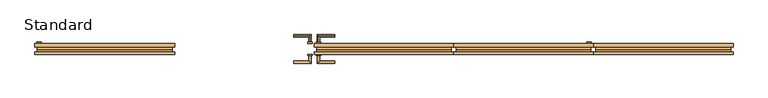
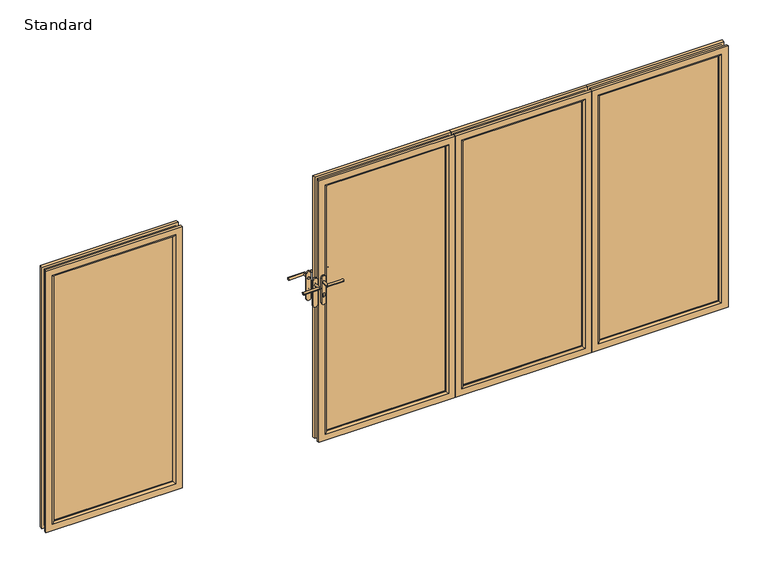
"""IFC4 building model written with IfcOpenShell, lengths in millimetres: door geometry, SMARTS_Visofold1000 : Standard."""

from ifc_helpers import new_model, si_unit, point, frame, frame_2d, origin, place, context, project, spatial, polyline, circle_curve, ellipse_curve, trimmed, segment, composite_curve, outline, extrude, faceted_brep, source, transform, mapped, element, save
from ifc_brep_helpers import plane_surface, cylinder_surface, advanced_brep


def standard_dc8b9571(model_context):
    return source(origin(), model_context, "Body", "SolidModel", [
        extrude(outline(composite_curve([segment(polyline([(1228.0996413, 1927.3333333), (1040.0996413, 1927.3333333)]), True, "CONTINUOUS"), segment(trimmed(circle_curve(frame_2d((1040.0996413, 1943.3333333)), 16.0), [point((1040.0996413, 1927.3333333))], [point((1040.0996413, 1959.3333333))], False, "CARTESIAN"), True, "CONTINUOUS"), segment(polyline([(1040.0996413, 1959.3333333), (1228.0996413, 1959.3333333)]), True, "CONTINUOUS"), segment(trimmed(circle_curve(frame_2d((1228.0996413, 1943.3333333)), 16.0), [point((1228.0996413, 1959.3333333))], [point((1228.0996413, 1927.3333333))], False, "CARTESIAN"), True, "CONTINUOUS")], self_intersect=False)), frame((0.0, 75.0, 0.0), z_axis=(0.0, 1.0, 0.0), x_axis=(0.0, 0.0, 1.0)), (0.0, 0.0, 1.0), 10.0),
        extrude(outline(polyline([(45.0, 1928.3333333), (1955.0, 1928.3333333), (1955.0, 1031.6666667), (45.0, 1031.6666667), (45.0, 1928.3333333)]), holes=[polyline([(1939.5, 1912.8333333), (60.5, 1912.8333333), (60.5, 1047.1666667), (1939.5, 1047.1666667), (1939.5, 1912.8333333)])]), frame((0.0, 17.4, 0.0), z_axis=(0.0, 1.0, 0.0), x_axis=(0.0, 0.0, 1.0)), (0.0, 0.0, 1.0), 35.0),
        faceted_brep([(1973.3333333, 74.4, 0.0), (1973.3333333, 74.4, 2000.0), (1973.3333333, 52.4, 2000.0), (1973.3333333, 52.4, 0.0), (1912.8333333, 52.4, 60.5), (1912.8333333, 52.4, 1939.5), (1912.8333333, 74.4, 1939.5), (1912.8333333, 74.4, 60.5), (986.6666667, 74.4, 2000.0), (986.6666667, 52.4, 2000.0), (1047.1666667, 52.4, 1939.5), (1047.1666667, 74.4, 1939.5), (986.6666667, 74.4, 0.0), (986.6666667, 52.4, 0.0), (1047.1666667, 52.4, 60.5), (1047.1666667, 74.4, 60.5), (1955.4641853, 34.8, 17.8691481), (1955.4641853, 34.8, 1982.1308519), (1004.5358147, 34.8, 1982.1308519), (1004.5358147, 34.8, 17.8691481), (1928.3333333, 34.8, 1955.0), (1928.3333333, 34.8, 45.0), (1031.6666667, 34.8, 45.0), (1031.6666667, 34.8, 1955.0), (1955.4641853, 52.4, 17.8691481), (1955.4641853, 52.4, 1982.1308519), (1928.3333333, 52.4, 1955.0), (1928.3333333, 52.4, 45.0), (1004.5358147, 52.4, 1982.1308519), (1031.6666667, 52.4, 1955.0), (1004.5358147, 52.4, 17.8691481), (1031.6666667, 52.4, 45.0)], [[[0, 1, 2, 3]], [[4, 5, 6, 7]], [[1, 8, 9, 2]], [[5, 10, 11, 6]], [[8, 12, 13, 9]], [[10, 14, 15, 11]], [[12, 0, 3, 13]], [[1, 0, 12, 8], [7, 6, 11, 15]], [[14, 4, 7, 15]], [[16, 17, 18, 19], [20, 21, 22, 23]], [[24, 25, 17, 16]], [[21, 20, 26, 27]], [[25, 28, 18, 17]], [[20, 23, 29, 26]], [[28, 30, 19, 18]], [[23, 22, 31, 29]], [[30, 24, 16, 19]], [[3, 2, 9, 13], [25, 24, 30, 28]], [[27, 26, 29, 31], [5, 4, 14, 10]], [[22, 21, 27, 31]]]),
        advanced_brep(
        [(1912.8333333, 13.3, 60.5), (1912.8333333, 13.3, 1939.5), (1912.8333333, 17.4, 1939.5), (1912.8333333, 17.4, 60.5), (1973.3333333, 17.4, 0.0), (1973.3333333, 17.4, 2000.0), (1973.3333333, 0.0, 2000.0), (1973.3333333, 0.0, 0.0), (1047.1666667, 13.3, 1939.5), (1047.1666667, 17.4, 1939.5), (986.6666667, 17.4, 2000.0), (986.6666667, 0.0, 2000.0), (1047.1666667, 13.3, 60.5), (1047.1666667, 17.4, 60.5), (986.6666667, 17.4, 0.0), (986.6666667, 0.0, 0.0), (1926.1333333, 0.0, 1952.8), (1926.1333333, 0.0, 47.2), (1033.8666667, 0.0, 47.2), (1033.8666667, 0.0, 1952.8), (1955.4641853, 34.8, 17.8691481), (1955.4641853, 34.8, 1982.1308519), (1955.4641853, 17.4, 1982.1308519), (1955.4641853, 17.4, 17.8691481), (1004.5358147, 34.8, 1982.1308519), (1004.5358147, 17.4, 1982.1308519), (1004.5358147, 34.8, 17.8691481), (1004.5358147, 17.4, 17.8691481), (1928.3333333, 17.4, 45.0), (1928.3333333, 17.4, 1955.0), (1928.3333333, 34.8, 1955.0), (1928.3333333, 34.8, 45.0), (1031.6666667, 17.4, 1955.0), (1031.6666667, 34.8, 1955.0), (1031.6666667, 17.4, 45.0), (1031.6666667, 34.8, 45.0)],
        [
            (0, 1),
            (1, 2),
            (2, 3),
            (3, 0),
            (4, 5),
            (5, 6),
            (6, 7),
            (7, 4),
            (1, 8),
            (8, 9),
            (9, 2),
            (5, 10),
            (10, 11),
            (11, 6),
            (8, 12),
            (12, 13),
            (13, 9),
            (10, 14),
            (14, 15),
            (15, 11),
            (12, 0),
            (3, 13),
            (15, 7),
            (16, 17),
            (17, 18),
            (18, 19),
            (19, 16),
            (14, 4),
            (16, 1, ellipse_curve(frame((1926.1333333, 13.3, 1952.8), z_axis=(0.7071067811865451, 0.0, -0.7071067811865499), x_axis=(-0.70710678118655, 0.0, -0.7071067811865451)), 18.8090404, 13.3)),
            (0, 17, ellipse_curve(frame((1926.1333333, 13.3, 47.2), z_axis=(0.70710678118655, 0.0, 0.707106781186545), x_axis=(0.707106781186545, 0.0, -0.7071067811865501)), 18.8090404, 13.3)),
            (19, 8, ellipse_curve(frame((1033.8666667, 13.3, 1952.8), z_axis=(0.70710678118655, 0.0, 0.707106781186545), x_axis=(0.707106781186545, 0.0, -0.7071067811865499)), 18.8090404, 13.3)),
            (18, 12, ellipse_curve(frame((1033.8666667, 13.3, 47.2), z_axis=(-0.7071067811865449, 0.0, 0.70710678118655), x_axis=(0.7071067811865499, 0.0, 0.707106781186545)), 18.8090404, 13.3)),
            (20, 21),
            (21, 22),
            (22, 23),
            (23, 20),
            (21, 24),
            (24, 25),
            (25, 22),
            (24, 26),
            (26, 27),
            (27, 25),
            (27, 23),
            (26, 20),
            (28, 29),
            (29, 30),
            (30, 31),
            (31, 28),
            (29, 32),
            (32, 33),
            (33, 30),
            (32, 34),
            (34, 35),
            (35, 33),
            (34, 28),
            (31, 35),
        ],
        [
            plane_surface(frame((1912.8333333, 17.4, 60.5), z_axis=(-1.0, 0.0, 0.0), x_axis=(0.0, 0.0, 1.0))),
            plane_surface(frame((1973.3333333, 0.0, 0.0), z_axis=(1.0, 0.0, 0.0), x_axis=(0.0, 0.0, 1.0))),
            plane_surface(frame((1912.8333333, 17.4, 1939.5), z_axis=(0.0, 0.0, -1.0), x_axis=(-1.0, 0.0, 0.0))),
            plane_surface(frame((1973.3333333, 0.0, 2000.0), z_axis=(0.0, 0.0, 1.0), x_axis=(-1.0, 0.0, 0.0))),
            plane_surface(frame((1047.1666667, 17.4, 1939.5), z_axis=(1.0, 0.0, 0.0), x_axis=(0.0, 0.0, -1.0))),
            plane_surface(frame((986.6666667, 0.0, 2000.0), z_axis=(-1.0, 0.0, 0.0), x_axis=(0.0, 0.0, -1.0))),
            plane_surface(frame((1047.1666667, 17.4, 60.5), z_axis=(0.0, 0.0, 1.0), x_axis=(1.0, 0.0, 0.0))),
            plane_surface(frame((1033.8666667, 0.0, 47.2), z_axis=(0.0, -1.0, 0.0), x_axis=(1.0, 0.0, 0.0))),
            plane_surface(frame((986.6666667, 0.0, 0.0), z_axis=(0.0, 0.0, -1.0), x_axis=(1.0, 0.0, 0.0))),
            cylinder_surface(frame((1926.1333333, 13.3, 0.0), z_axis=(0.0, 0.0, -1.0), x_axis=(0.0, 1.0, 0.0)), 13.3),
            cylinder_surface(frame((1973.3333333, 13.3, 1952.8), z_axis=(1.0, 0.0, 0.0), x_axis=(0.0, 1.0, 0.0)), 13.3),
            cylinder_surface(frame((1033.8666667, 13.3, 2000.0), z_axis=(0.0, 0.0, 1.0), x_axis=(0.0, 1.0, 0.0)), 13.3),
            cylinder_surface(frame((986.6666667, 13.3, 47.2), z_axis=(-1.0, 0.0, 0.0), x_axis=(0.0, 1.0, 0.0)), 13.3),
            plane_surface(frame((1955.4641853, 17.4, 17.8691481), z_axis=(1.0, 0.0, 0.0), x_axis=(0.0, 0.0, 1.0))),
            plane_surface(frame((1955.4641853, 17.4, 1982.1308519), z_axis=(0.0, 0.0, 1.0), x_axis=(-1.0, 0.0, 0.0))),
            plane_surface(frame((1004.5358147, 17.4, 1982.1308519), z_axis=(-1.0, 0.0, 0.0), x_axis=(0.0, 0.0, -1.0))),
            plane_surface(frame((986.6666667, 17.4, 0.0), z_axis=(0.0, 1.0, 0.0), x_axis=(1.0, 0.0, 0.0))),
            plane_surface(frame((1004.5358147, 17.4, 17.8691481), z_axis=(0.0, 0.0, -1.0), x_axis=(1.0, 0.0, 0.0))),
            plane_surface(frame((1928.3333333, 34.8, 45.0), z_axis=(-1.0, 0.0, 0.0), x_axis=(0.0, 0.0, 1.0))),
            plane_surface(frame((1928.3333333, 34.8, 1955.0), z_axis=(0.0, 0.0, -1.0), x_axis=(-1.0, 0.0, 0.0))),
            plane_surface(frame((1031.6666667, 34.8, 1955.0), z_axis=(1.0, 0.0, 0.0), x_axis=(0.0, 0.0, -1.0))),
            plane_surface(frame((1031.6666667, 34.8, 45.0), z_axis=(0.0, 0.0, 1.0), x_axis=(1.0, 0.0, 0.0))),
            plane_surface(frame((1031.6666667, 17.4, 45.0), z_axis=(0.0, 1.0, 0.0), x_axis=(1.0, 0.0, 0.0))),
            plane_surface(frame((1004.5358147, 34.8, 17.8691481), z_axis=(0.0, 1.0, 0.0), x_axis=(1.0, 0.0, 0.0))),
        ],
        [
            (0, [[1, 2, 3, 4]]),
            (1, [[5, 6, 7, 8]]),
            (2, [[9, 10, 11, -2]]),
            (3, [[12, 13, 14, -6]]),
            (4, [[15, 16, 17, -10]]),
            (5, [[18, 19, 20, -13]]),
            (6, [[21, -4, 22, -16]]),
            (7, [[-7, -14, -20, 23], [24, 25, 26, 27]]),
            (8, [[28, -8, -23, -19]]),
            (9, [[-24, 29, -1, 30]]),
            (10, [[-27, 31, -9, -29]]),
            (11, [[-26, 32, -15, -31]]),
            (12, [[-25, -30, -21, -32]]),
            (13, [[33, 34, 35, 36]]),
            (14, [[37, 38, 39, -34]]),
            (15, [[40, 41, 42, -38]]),
            (16, [[-5, -28, -18, -12], [-35, -39, -42, 43]]),
            (17, [[44, -36, -43, -41]]),
            (18, [[45, 46, 47, 48]]),
            (19, [[49, 50, 51, -46]]),
            (20, [[52, 53, 54, -50]]),
            (21, [[55, -48, 56, -53]]),
            (22, [[-45, -55, -52, -49], [-3, -11, -17, -22]]),
            (23, [[-33, -44, -40, -37], [-47, -51, -54, -56]]),
        ],
    ),
        extrude(outline(polyline([(1912.8333333, 50.1484783), (1912.8333333, 21.4), (1047.1666667, 21.4), (1047.1666667, 50.1484783), (1912.8333333, 50.1484783)])), frame((0.0, 0.0, 60.5), z_axis=(0.0, 0.0, 1.0), x_axis=(1.0, 0.0, 0.0)), (0.0, 0.0, 1.0), 1879.0),
        advanced_brep(
        [(30.0, 75.0, 1232.5996413), (30.0, 75.0, 1215.5996413), (30.0, 130.0, 1215.5996413), (30.0, 130.0, 1232.5996413), (145.0, 130.0, 1232.5996413), (145.0, 130.0, 1215.5996413)],
        [
            (0, 1, circle_curve(frame((30.0, 75.0, 1224.0996413), z_axis=(0.0, -1.0, 0.0), x_axis=(0.0, 0.0, -1.0)), 8.5)),
            (1, 0, circle_curve(frame((30.0, 75.0, 1224.0996413), z_axis=(0.0, -1.0, 0.0), x_axis=(0.0, 0.0, -1.0)), 8.5)),
            (1, 2),
            (2, 3, ellipse_curve(frame((30.0, 130.0, 1224.0996413), z_axis=(-0.7071067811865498, -0.7071067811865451, 0.0), x_axis=(0.707106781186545, -0.70710678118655, 0.0)), 12.0208153, 8.5)),
            (3, 0),
            (3, 2, ellipse_curve(frame((30.0, 130.0, 1224.0996413), z_axis=(-0.7071067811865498, -0.7071067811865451, 0.0), x_axis=(0.707106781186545, -0.70710678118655, 0.0)), 12.0208153, 8.5)),
            (4, 5, circle_curve(frame((145.0, 130.0, 1224.0996413), z_axis=(1.0, 0.0, 0.0), x_axis=(0.0, 0.0, -1.0)), 8.5)),
            (5, 4, circle_curve(frame((145.0, 130.0, 1224.0996413), z_axis=(1.0, 0.0, 0.0), x_axis=(0.0, 0.0, -1.0)), 8.5)),
            (2, 5),
            (4, 3),
        ],
        [
            plane_surface(frame((30.0, 75.0, 1224.0996413), z_axis=(0.0, -1.0, 0.0), x_axis=(0.0, 0.0, -1.0))),
            cylinder_surface(frame((30.0, 75.0, 1224.0996413), z_axis=(0.0, -1.0, 0.0), x_axis=(0.0, 0.0, -1.0)), 8.5),
            plane_surface(frame((145.0, 130.0, 1224.0996413), z_axis=(1.0, 0.0, 0.0), x_axis=(0.0, 0.0, -1.0))),
            cylinder_surface(frame((30.0, 130.0, 1224.0996413), z_axis=(-1.0, 0.0, 0.0), x_axis=(0.0, 0.0, -1.0)), 8.5),
        ],
        [
            (0, [[1, 2]]),
            (1, [[-2, 3, 4, 5]]),
            (1, [[-1, -5, 6, -3]]),
            (2, [[7, 8]]),
            (3, [[-4, 9, -7, 10]]),
            (3, [[-6, -10, -8, -9]]),
        ],
    ),
        extrude(outline(composite_curve([segment(trimmed(circle_curve(frame_2d((1258.0996413, 30.0)), 16.0), [point((1258.0996413, 46.0))], [point((1258.0996413, 14.0))], False, "CARTESIAN"), True, "CONTINUOUS"), segment(polyline([(1258.0996413, 14.0), (1070.0996413, 14.0)]), True, "CONTINUOUS"), segment(trimmed(circle_curve(frame_2d((1070.0996413, 30.0)), 16.0), [point((1070.0996413, 14.0))], [point((1070.0996413, 46.0))], False, "CARTESIAN"), True, "CONTINUOUS"), segment(polyline([(1070.0996413, 46.0), (1258.0996413, 46.0)]), True, "CONTINUOUS")], self_intersect=False)), frame((0.0, 75.0, 0.0), z_axis=(0.0, 1.0, 0.0), x_axis=(0.0, 0.0, 1.0)), (0.0, 0.0, 1.0), 10.0),
        advanced_brep(
        [(38.5, 0.0, 1224.0996413), (21.5, 0.0, 1224.0996413), (38.5, -46.5, 1224.0996413), (21.5, -63.5, 1224.0996413), (145.0, -46.5, 1224.0996413), (145.0, -63.5, 1224.0996413)],
        [
            (0, 1, circle_curve(frame((30.0, 0.0, 1224.0996413), z_axis=(0.0, 1.0, 0.0), x_axis=(-1.0, 0.0, 0.0)), 8.5)),
            (1, 0, circle_curve(frame((30.0, 0.0, 1224.0996413), z_axis=(0.0, 1.0, 0.0), x_axis=(-1.0, 0.0, 0.0)), 8.5)),
            (0, 2),
            (2, 3, ellipse_curve(frame((30.0, -55.0, 1224.0996413), z_axis=(-0.7071067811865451, 0.7071067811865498, 0.0), x_axis=(0.7071067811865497, 0.7071067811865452, 0.0)), 12.0208153, 8.5)),
            (3, 1),
            (3, 2, ellipse_curve(frame((30.0, -55.0, 1224.0996413), z_axis=(-0.7071067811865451, 0.7071067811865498, 0.0), x_axis=(0.7071067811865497, 0.7071067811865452, 0.0)), 12.0208153, 8.5)),
            (4, 5, circle_curve(frame((145.0, -55.0, 1224.0996413), z_axis=(1.0, 0.0, 0.0), x_axis=(0.0, -1.0, 0.0)), 8.5)),
            (5, 4, circle_curve(frame((145.0, -55.0, 1224.0996413), z_axis=(1.0, 0.0, 0.0), x_axis=(0.0, -1.0, 0.0)), 8.5)),
            (2, 4),
            (5, 3),
        ],
        [
            plane_surface(frame((30.0, 0.0, 1224.0996413), z_axis=(0.0, 1.0, 0.0), x_axis=(0.0, 0.0, -1.0))),
            cylinder_surface(frame((30.0, 0.0, 1224.0996413), z_axis=(0.0, 1.0, 0.0), x_axis=(-1.0, 0.0, 0.0)), 8.5),
            plane_surface(frame((145.0, -55.0, 1224.0996413), z_axis=(1.0, 0.0, 0.0), x_axis=(0.0, 0.0, -1.0))),
            cylinder_surface(frame((30.0, -55.0, 1224.0996413), z_axis=(-1.0, 0.0, 0.0), x_axis=(0.0, -1.0, 0.0)), 8.5),
        ],
        [
            (0, [[1, 2]]),
            (1, [[-1, 3, 4, 5]]),
            (1, [[-2, -5, 6, -3]]),
            (2, [[7, 8]]),
            (3, [[-4, 9, -8, 10]]),
            (3, [[-6, -10, -7, -9]]),
        ],
    ),
        extrude(outline(composite_curve([segment(trimmed(circle_curve(frame_2d((1258.0996413, 30.0)), 16.0), [point((1258.0996413, 46.0))], [point((1258.0996413, 14.0))], False, "CARTESIAN"), True, "CONTINUOUS"), segment(polyline([(1258.0996413, 14.0), (1070.0996413, 14.0)]), True, "CONTINUOUS"), segment(trimmed(circle_curve(frame_2d((1070.0996413, 30.0)), 16.0), [point((1070.0996413, 14.0))], [point((1070.0996413, 46.0))], False, "CARTESIAN"), True, "CONTINUOUS"), segment(polyline([(1070.0996413, 46.0), (1258.0996413, 46.0)]), True, "CONTINUOUS")], self_intersect=False)), frame((0.0, -10.0, 0.0), z_axis=(0.0, 1.0, 0.0), x_axis=(0.0, 0.0, 1.0)), (0.0, 0.0, 1.0), 10.0),
        extrude(outline(composite_curve([segment(trimmed(circle_curve(frame_2d((1132.0996413, 30.0571906)), 8.5), [point((1125.1769586, 34.9893771))], [point((1125.27562, 24.9893771))], False, "CARTESIAN"), True, "CONTINUOUS"), segment(polyline([(1125.27562, 24.9893771), (1117.5996413, 24.9893771)]), True, "CONTINUOUS"), segment(trimmed(circle_curve(frame_2d((1117.5996413, 29.9893771)), 5.0), [point((1117.5996413, 24.9893771))], [point((1117.5996413, 34.9893771))], False, "CARTESIAN"), True, "CONTINUOUS"), segment(polyline([(1117.5996413, 34.9893771), (1125.1769586, 34.9893771)]), True, "CONTINUOUS")], self_intersect=False)), frame((0.0, 85.0, 0.0), z_axis=(0.0, 1.0, 0.0), x_axis=(0.0, 0.0, 1.0)), (0.0, 0.0, 1.0), 2.0),
        extrude(outline(composite_curve([segment(trimmed(circle_curve(frame_2d((1132.0996413, 30.0571906)), 8.5), [point((1125.1769586, 34.9893771))], [point((1125.27562, 24.9893771))], False, "CARTESIAN"), True, "CONTINUOUS"), segment(polyline([(1125.27562, 24.9893771), (1117.5996413, 24.9893771)]), True, "CONTINUOUS"), segment(trimmed(circle_curve(frame_2d((1117.5996413, 29.9893771)), 5.0), [point((1117.5996413, 24.9893771))], [point((1117.5996413, 34.9893771))], False, "CARTESIAN"), True, "CONTINUOUS"), segment(polyline([(1117.5996413, 34.9893771), (1125.1769586, 34.9893771)]), True, "CONTINUOUS")], self_intersect=False)), frame((0.0, -12.0, 0.0), z_axis=(0.0, 1.0, 0.0), x_axis=(0.0, 0.0, 1.0)), (0.0, 0.0, 1.0), 2.0),
        extrude(outline(polyline([(45.0, 45.0), (45.0, 941.6666667), (1955.0, 941.6666667), (1955.0, 45.0), (45.0, 45.0)]), holes=[polyline([(1939.5, 60.5), (1939.5, 926.1666667), (60.5, 926.1666667), (60.5, 60.5), (1939.5, 60.5)])]), frame((0.0, 17.4, 0.0), z_axis=(0.0, 1.0, 0.0), x_axis=(0.0, 0.0, 1.0)), (0.0, 0.0, 1.0), 35.0),
        faceted_brep([(0.0, 74.4, 0.0), (0.0, 52.4, 0.0), (0.0, 52.4, 2000.0), (0.0, 74.4, 2000.0), (60.5, 52.4, 60.5), (60.5, 74.4, 60.5), (60.5, 74.4, 1939.5), (60.5, 52.4, 1939.5), (986.6666667, 52.4, 2000.0), (986.6666667, 74.4, 2000.0), (926.1666667, 74.4, 1939.5), (926.1666667, 52.4, 1939.5), (986.6666667, 52.4, 0.0), (986.6666667, 74.4, 0.0), (926.1666667, 74.4, 60.5), (926.1666667, 52.4, 60.5), (17.8691481, 34.8, 17.8691481), (968.7975186, 34.8, 17.8691481), (968.7975186, 34.8, 1982.1308519), (17.8691481, 34.8, 1982.1308519), (45.0, 34.8, 1955.0), (941.6666667, 34.8, 1955.0), (941.6666667, 34.8, 45.0), (45.0, 34.8, 45.0), (17.8691481, 52.4, 17.8691481), (17.8691481, 52.4, 1982.1308519), (45.0, 52.4, 45.0), (45.0, 52.4, 1955.0), (968.7975186, 52.4, 1982.1308519), (941.6666667, 52.4, 1955.0), (968.7975186, 52.4, 17.8691481), (941.6666667, 52.4, 45.0)], [[[0, 1, 2, 3]], [[4, 5, 6, 7]], [[3, 2, 8, 9]], [[7, 6, 10, 11]], [[9, 8, 12, 13]], [[11, 10, 14, 15]], [[13, 12, 1, 0]], [[3, 9, 13, 0], [5, 14, 10, 6]], [[15, 14, 5, 4]], [[16, 17, 18, 19], [20, 21, 22, 23]], [[24, 16, 19, 25]], [[23, 26, 27, 20]], [[25, 19, 18, 28]], [[20, 27, 29, 21]], [[28, 18, 17, 30]], [[21, 29, 31, 22]], [[30, 17, 16, 24]], [[1, 12, 8, 2], [25, 28, 30, 24]], [[26, 31, 29, 27], [7, 11, 15, 4]], [[22, 31, 26, 23]]]),
        advanced_brep(
        [(60.5, 13.3, 60.5), (60.5, 17.4, 60.5), (60.5, 17.4, 1939.5), (60.5, 13.3, 1939.5), (0.0, 17.4, 0.0), (0.0, 0.0, 0.0), (0.0, 0.0, 2000.0), (0.0, 17.4, 2000.0), (926.1666667, 17.4, 1939.5), (926.1666667, 13.3, 1939.5), (986.6666667, 0.0, 2000.0), (986.6666667, 17.4, 2000.0), (926.1666667, 17.4, 60.5), (926.1666667, 13.3, 60.5), (986.6666667, 0.0, 0.0), (986.6666667, 17.4, 0.0), (47.2, 0.0, 1952.8), (939.4666667, 0.0, 1952.8), (939.4666667, 0.0, 47.2), (47.2, 0.0, 47.2), (17.8691481, 34.8, 17.8691481), (17.8691481, 17.4, 17.8691481), (17.8691481, 17.4, 1982.1308519), (17.8691481, 34.8, 1982.1308519), (968.7975186, 17.4, 1982.1308519), (968.7975186, 34.8, 1982.1308519), (968.7975186, 17.4, 17.8691481), (968.7975186, 34.8, 17.8691481), (45.0, 17.4, 45.0), (45.0, 34.8, 45.0), (45.0, 34.8, 1955.0), (45.0, 17.4, 1955.0), (941.6666667, 34.8, 1955.0), (941.6666667, 17.4, 1955.0), (941.6666667, 34.8, 45.0), (941.6666667, 17.4, 45.0)],
        [
            (0, 1),
            (1, 2),
            (2, 3),
            (3, 0),
            (4, 5),
            (5, 6),
            (6, 7),
            (7, 4),
            (2, 8),
            (8, 9),
            (9, 3),
            (6, 10),
            (10, 11),
            (11, 7),
            (8, 12),
            (12, 13),
            (13, 9),
            (10, 14),
            (14, 15),
            (15, 11),
            (12, 1),
            (0, 13),
            (5, 14),
            (16, 17),
            (17, 18),
            (18, 19),
            (19, 16),
            (4, 15),
            (19, 0, ellipse_curve(frame((47.2, 13.3, 47.2), z_axis=(-0.70710678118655, 0.0, 0.707106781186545), x_axis=(-0.707106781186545, 0.0, -0.7071067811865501)), 18.8090404, 13.3)),
            (3, 16, ellipse_curve(frame((47.2, 13.3, 1952.8), z_axis=(-0.7071067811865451, 0.0, -0.7071067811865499), x_axis=(0.70710678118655, 0.0, -0.7071067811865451)), 18.8090404, 13.3)),
            (9, 17, ellipse_curve(frame((939.4666667, 13.3, 1952.8), z_axis=(-0.70710678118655, 0.0, 0.707106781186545), x_axis=(-0.707106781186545, 0.0, -0.7071067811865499)), 18.8090404, 13.3)),
            (13, 18, ellipse_curve(frame((939.4666667, 13.3, 47.2), z_axis=(0.7071067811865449, 0.0, 0.70710678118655), x_axis=(-0.7071067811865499, 0.0, 0.707106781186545)), 18.8090404, 13.3)),
            (20, 21),
            (21, 22),
            (22, 23),
            (23, 20),
            (22, 24),
            (24, 25),
            (25, 23),
            (24, 26),
            (26, 27),
            (27, 25),
            (21, 26),
            (20, 27),
            (28, 29),
            (29, 30),
            (30, 31),
            (31, 28),
            (30, 32),
            (32, 33),
            (33, 31),
            (32, 34),
            (34, 35),
            (35, 33),
            (34, 29),
            (28, 35),
        ],
        [
            plane_surface(frame((60.5, 17.4, 60.5), z_axis=(1.0, 0.0, 0.0), x_axis=(0.0, 0.0, 1.0))),
            plane_surface(frame((0.0, 0.0, 0.0), z_axis=(-1.0, 0.0, 0.0), x_axis=(0.0, 0.0, 1.0))),
            plane_surface(frame((60.5, 17.4, 1939.5), z_axis=(0.0, 0.0, -1.0), x_axis=(1.0, 0.0, 0.0))),
            plane_surface(frame((0.0, 0.0, 2000.0), z_axis=(0.0, 0.0, 1.0), x_axis=(1.0, 0.0, 0.0))),
            plane_surface(frame((926.1666667, 17.4, 1939.5), z_axis=(-1.0, 0.0, 0.0), x_axis=(0.0, 0.0, -1.0))),
            plane_surface(frame((986.6666667, 0.0, 2000.0), z_axis=(1.0, 0.0, 0.0), x_axis=(0.0, 0.0, -1.0))),
            plane_surface(frame((926.1666667, 17.4, 60.5), z_axis=(0.0, 0.0, 1.0), x_axis=(-1.0, 0.0, 0.0))),
            plane_surface(frame((939.4666667, 0.0, 47.2), z_axis=(0.0, -1.0, 0.0), x_axis=(-1.0, 0.0, 0.0))),
            plane_surface(frame((986.6666667, 0.0, 0.0), z_axis=(0.0, 0.0, -1.0), x_axis=(-1.0, 0.0, 0.0))),
            cylinder_surface(frame((47.2, 13.3, 0.0), z_axis=(0.0, 0.0, -1.0), x_axis=(0.0, 1.0, 0.0)), 13.3),
            cylinder_surface(frame((0.0, 13.3, 1952.8), z_axis=(-1.0, 0.0, 0.0), x_axis=(0.0, 1.0, 0.0)), 13.3),
            cylinder_surface(frame((939.4666667, 13.3, 2000.0), z_axis=(0.0, 0.0, 1.0), x_axis=(0.0, 1.0, 0.0)), 13.3),
            cylinder_surface(frame((986.6666667, 13.3, 47.2), z_axis=(1.0, 0.0, 0.0), x_axis=(0.0, 1.0, 0.0)), 13.3),
            plane_surface(frame((17.8691481, 17.4, 17.8691481), z_axis=(-1.0, 0.0, 0.0), x_axis=(0.0, 0.0, 1.0))),
            plane_surface(frame((17.8691481, 17.4, 1982.1308519), z_axis=(0.0, 0.0, 1.0), x_axis=(1.0, 0.0, 0.0))),
            plane_surface(frame((968.7975186, 17.4, 1982.1308519), z_axis=(1.0, 0.0, 0.0), x_axis=(0.0, 0.0, -1.0))),
            plane_surface(frame((986.6666667, 17.4, 0.0), z_axis=(0.0, 1.0, 0.0), x_axis=(-1.0, 0.0, 0.0))),
            plane_surface(frame((968.7975186, 17.4, 17.8691481), z_axis=(0.0, 0.0, -1.0), x_axis=(-1.0, 0.0, 0.0))),
            plane_surface(frame((45.0, 34.8, 45.0), z_axis=(1.0, 0.0, 0.0), x_axis=(0.0, 0.0, 1.0))),
            plane_surface(frame((45.0, 34.8, 1955.0), z_axis=(0.0, 0.0, -1.0), x_axis=(1.0, 0.0, 0.0))),
            plane_surface(frame((941.6666667, 34.8, 1955.0), z_axis=(-1.0, 0.0, 0.0), x_axis=(0.0, 0.0, -1.0))),
            plane_surface(frame((941.6666667, 34.8, 45.0), z_axis=(0.0, 0.0, 1.0), x_axis=(-1.0, 0.0, 0.0))),
            plane_surface(frame((941.6666667, 17.4, 45.0), z_axis=(0.0, 1.0, 0.0), x_axis=(-1.0, 0.0, 0.0))),
            plane_surface(frame((968.7975186, 34.8, 17.8691481), z_axis=(0.0, 1.0, 0.0), x_axis=(-1.0, 0.0, 0.0))),
        ],
        [
            (0, [[1, 2, 3, 4]]),
            (1, [[5, 6, 7, 8]]),
            (2, [[-3, 9, 10, 11]]),
            (3, [[-7, 12, 13, 14]]),
            (4, [[-10, 15, 16, 17]]),
            (5, [[-13, 18, 19, 20]]),
            (6, [[-16, 21, -1, 22]]),
            (7, [[23, -18, -12, -6], [24, 25, 26, 27]]),
            (8, [[-19, -23, -5, 28]]),
            (9, [[29, -4, 30, -27]]),
            (10, [[-30, -11, 31, -24]]),
            (11, [[-31, -17, 32, -25]]),
            (12, [[-32, -22, -29, -26]]),
            (13, [[33, 34, 35, 36]]),
            (14, [[-35, 37, 38, 39]]),
            (15, [[-38, 40, 41, 42]]),
            (16, [[-14, -20, -28, -8], [43, -40, -37, -34]]),
            (17, [[-41, -43, -33, 44]]),
            (18, [[45, 46, 47, 48]]),
            (19, [[-47, 49, 50, 51]]),
            (20, [[-50, 52, 53, 54]]),
            (21, [[-53, 55, -45, 56]]),
            (22, [[-51, -54, -56, -48], [-21, -15, -9, -2]]),
            (23, [[-39, -42, -44, -36], [-55, -52, -49, -46]]),
        ],
    ),
        extrude(outline(polyline([(60.5, 50.1484783), (926.1666667, 50.1484783), (926.1666667, 21.4), (60.5, 21.4), (60.5, 50.1484783)])), frame((0.0, 0.0, 60.5), z_axis=(0.0, 0.0, 1.0), x_axis=(1.0, 0.0, 0.0)), (0.0, 0.0, 1.0), 1879.0),
        extrude(outline(polyline([(45.0, 2018.3333333), (45.0, 2915.0), (1955.0, 2915.0), (1955.0, 2018.3333333), (45.0, 2018.3333333)]), holes=[polyline([(1939.5, 2033.8333333), (1939.5, 2899.5), (60.5, 2899.5), (60.5, 2033.8333333), (1939.5, 2033.8333333)])]), frame((0.0, 17.4, 0.0), z_axis=(0.0, 1.0, 0.0), x_axis=(0.0, 0.0, 1.0)), (0.0, 0.0, 1.0), 35.0),
        faceted_brep([(1973.3333333, 74.4, 0.0), (1973.3333333, 52.4, 0.0), (1973.3333333, 52.4, 2000.0), (1973.3333333, 74.4, 2000.0), (2033.8333333, 52.4, 60.5), (2033.8333333, 74.4, 60.5), (2033.8333333, 74.4, 1939.5), (2033.8333333, 52.4, 1939.5), (2960.0, 74.4, 0.0), (2960.0, 52.4, 0.0), (2960.0, 52.4, 2000.0), (2960.0, 74.4, 2000.0), (2899.5, 74.4, 1939.5), (2899.5, 52.4, 1939.5), (2899.5, 74.4, 60.5), (2899.5, 52.4, 60.5), (1991.2024814, 34.8, 17.8691481), (2942.1308519, 34.8, 17.8691481), (2942.1308519, 34.8, 1982.1308519), (1991.2024814, 34.8, 1982.1308519), (2018.3333333, 34.8, 1955.0), (2915.0, 34.8, 1955.0), (2915.0, 34.8, 45.0), (2018.3333333, 34.8, 45.0), (1991.2024814, 52.4, 17.8691481), (1991.2024814, 52.4, 1982.1308519), (2018.3333333, 52.4, 45.0), (2018.3333333, 52.4, 1955.0), (2942.1308519, 52.4, 1982.1308519), (2915.0, 52.4, 1955.0), (2942.1308519, 52.4, 17.8691481), (2915.0, 52.4, 45.0)], [[[0, 1, 2, 3]], [[4, 5, 6, 7]], [[8, 9, 1, 0]], [[3, 2, 10, 11]], [[7, 6, 12, 13]], [[11, 10, 9, 8]], [[13, 12, 14, 15]], [[3, 11, 8, 0], [5, 14, 12, 6]], [[15, 14, 5, 4]], [[16, 17, 18, 19], [20, 21, 22, 23]], [[24, 16, 19, 25]], [[23, 26, 27, 20]], [[25, 19, 18, 28]], [[20, 27, 29, 21]], [[28, 18, 17, 30]], [[21, 29, 31, 22]], [[30, 17, 16, 24]], [[1, 9, 10, 2], [25, 28, 30, 24]], [[26, 31, 29, 27], [7, 13, 15, 4]], [[22, 31, 26, 23]]]),
        advanced_brep(
        [(2033.8333333, 13.3, 60.5), (2033.8333333, 17.4, 60.5), (2033.8333333, 17.4, 1939.5), (2033.8333333, 13.3, 1939.5), (1973.3333333, 17.4, 0.0), (1973.3333333, 0.0, 0.0), (1973.3333333, 0.0, 2000.0), (1973.3333333, 17.4, 2000.0), (2899.5, 17.4, 1939.5), (2899.5, 13.3, 1939.5), (2960.0, 0.0, 2000.0), (2960.0, 17.4, 2000.0), (2899.5, 17.4, 60.5), (2899.5, 13.3, 60.5), (2960.0, 0.0, 0.0), (2960.0, 17.4, 0.0), (2020.5333333, 0.0, 1952.8), (2912.8, 0.0, 1952.8), (2912.8, 0.0, 47.2), (2020.5333333, 0.0, 47.2), (1991.2024814, 34.8, 17.8691481), (1991.2024814, 17.4, 17.8691481), (1991.2024814, 17.4, 1982.1308519), (1991.2024814, 34.8, 1982.1308519), (2942.1308519, 17.4, 1982.1308519), (2942.1308519, 34.8, 1982.1308519), (2942.1308519, 17.4, 17.8691481), (2942.1308519, 34.8, 17.8691481), (2018.3333333, 17.4, 45.0), (2018.3333333, 34.8, 45.0), (2018.3333333, 34.8, 1955.0), (2018.3333333, 17.4, 1955.0), (2915.0, 34.8, 1955.0), (2915.0, 17.4, 1955.0), (2915.0, 34.8, 45.0), (2915.0, 17.4, 45.0)],
        [
            (0, 1),
            (1, 2),
            (2, 3),
            (3, 0),
            (4, 5),
            (5, 6),
            (6, 7),
            (7, 4),
            (2, 8),
            (8, 9),
            (9, 3),
            (6, 10),
            (10, 11),
            (11, 7),
            (8, 12),
            (12, 13),
            (13, 9),
            (10, 14),
            (14, 15),
            (15, 11),
            (12, 1),
            (0, 13),
            (5, 14),
            (16, 17),
            (17, 18),
            (18, 19),
            (19, 16),
            (4, 15),
            (19, 0, ellipse_curve(frame((2020.5333333, 13.3, 47.2), z_axis=(-0.70710678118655, 0.0, 0.707106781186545), x_axis=(-0.707106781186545, 0.0, -0.7071067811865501)), 18.8090404, 13.3)),
            (3, 16, ellipse_curve(frame((2020.5333333, 13.3, 1952.8), z_axis=(-0.7071067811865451, 0.0, -0.7071067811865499), x_axis=(0.70710678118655, 0.0, -0.7071067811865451)), 18.8090404, 13.3)),
            (9, 17, ellipse_curve(frame((2912.8, 13.3, 1952.8), z_axis=(-0.70710678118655, 0.0, 0.707106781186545), x_axis=(-0.707106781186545, 0.0, -0.7071067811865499)), 18.8090404, 13.3)),
            (13, 18, ellipse_curve(frame((2912.8, 13.3, 47.2), z_axis=(0.7071067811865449, 0.0, 0.70710678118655), x_axis=(-0.7071067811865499, 0.0, 0.707106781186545)), 18.8090404, 13.3)),
            (20, 21),
            (21, 22),
            (22, 23),
            (23, 20),
            (22, 24),
            (24, 25),
            (25, 23),
            (24, 26),
            (26, 27),
            (27, 25),
            (21, 26),
            (20, 27),
            (28, 29),
            (29, 30),
            (30, 31),
            (31, 28),
            (30, 32),
            (32, 33),
            (33, 31),
            (32, 34),
            (34, 35),
            (35, 33),
            (34, 29),
            (28, 35),
        ],
        [
            plane_surface(frame((2033.8333333, 17.4, 60.5), z_axis=(1.0, 0.0, 0.0), x_axis=(0.0, 0.0, 1.0))),
            plane_surface(frame((1973.3333333, 0.0, 0.0), z_axis=(-1.0, 0.0, 0.0), x_axis=(0.0, 0.0, 1.0))),
            plane_surface(frame((2033.8333333, 17.4, 1939.5), z_axis=(0.0, 0.0, -1.0), x_axis=(1.0, 0.0, 0.0))),
            plane_surface(frame((1973.3333333, 0.0, 2000.0), z_axis=(0.0, 0.0, 1.0), x_axis=(1.0, 0.0, 0.0))),
            plane_surface(frame((2899.5, 17.4, 1939.5), z_axis=(-1.0, 0.0, 0.0), x_axis=(0.0, 0.0, -1.0))),
            plane_surface(frame((2960.0, 0.0, 2000.0), z_axis=(1.0, 0.0, 0.0), x_axis=(0.0, 0.0, -1.0))),
            plane_surface(frame((2899.5, 17.4, 60.5), z_axis=(0.0, 0.0, 1.0), x_axis=(-1.0, 0.0, 0.0))),
            plane_surface(frame((2912.8, 0.0, 47.2), z_axis=(0.0, -1.0, 0.0), x_axis=(-1.0, 0.0, 0.0))),
            plane_surface(frame((2960.0, 0.0, 0.0), z_axis=(0.0, 0.0, -1.0), x_axis=(-1.0, 0.0, 0.0))),
            cylinder_surface(frame((2020.5333333, 13.3, 0.0), z_axis=(0.0, 0.0, -1.0), x_axis=(0.0, 1.0, 0.0)), 13.3),
            cylinder_surface(frame((1973.3333333, 13.3, 1952.8), z_axis=(-1.0, 0.0, 0.0), x_axis=(0.0, 1.0, 0.0)), 13.3),
            cylinder_surface(frame((2912.8, 13.3, 2000.0), z_axis=(0.0, 0.0, 1.0), x_axis=(0.0, 1.0, 0.0)), 13.3),
            cylinder_surface(frame((2960.0, 13.3, 47.2), z_axis=(1.0, 0.0, 0.0), x_axis=(0.0, 1.0, 0.0)), 13.3),
            plane_surface(frame((1991.2024814, 17.4, 17.8691481), z_axis=(-1.0, 0.0, 0.0), x_axis=(0.0, 0.0, 1.0))),
            plane_surface(frame((1991.2024814, 17.4, 1982.1308519), z_axis=(0.0, 0.0, 1.0), x_axis=(1.0, 0.0, 0.0))),
            plane_surface(frame((2942.1308519, 17.4, 1982.1308519), z_axis=(1.0, 0.0, 0.0), x_axis=(0.0, 0.0, -1.0))),
            plane_surface(frame((2960.0, 17.4, 0.0), z_axis=(0.0, 1.0, 0.0), x_axis=(-1.0, 0.0, 0.0))),
            plane_surface(frame((2942.1308519, 17.4, 17.8691481), z_axis=(0.0, 0.0, -1.0), x_axis=(-1.0, 0.0, 0.0))),
            plane_surface(frame((2018.3333333, 34.8, 45.0), z_axis=(1.0, 0.0, 0.0), x_axis=(0.0, 0.0, 1.0))),
            plane_surface(frame((2018.3333333, 34.8, 1955.0), z_axis=(0.0, 0.0, -1.0), x_axis=(1.0, 0.0, 0.0))),
            plane_surface(frame((2915.0, 34.8, 1955.0), z_axis=(-1.0, 0.0, 0.0), x_axis=(0.0, 0.0, -1.0))),
            plane_surface(frame((2915.0, 34.8, 45.0), z_axis=(0.0, 0.0, 1.0), x_axis=(-1.0, 0.0, 0.0))),
            plane_surface(frame((2915.0, 17.4, 45.0), z_axis=(0.0, 1.0, 0.0), x_axis=(-1.0, 0.0, 0.0))),
            plane_surface(frame((2942.1308519, 34.8, 17.8691481), z_axis=(0.0, 1.0, 0.0), x_axis=(-1.0, 0.0, 0.0))),
        ],
        [
            (0, [[1, 2, 3, 4]]),
            (1, [[5, 6, 7, 8]]),
            (2, [[-3, 9, 10, 11]]),
            (3, [[-7, 12, 13, 14]]),
            (4, [[-10, 15, 16, 17]]),
            (5, [[-13, 18, 19, 20]]),
            (6, [[-16, 21, -1, 22]]),
            (7, [[23, -18, -12, -6], [24, 25, 26, 27]]),
            (8, [[-19, -23, -5, 28]]),
            (9, [[29, -4, 30, -27]]),
            (10, [[-30, -11, 31, -24]]),
            (11, [[-31, -17, 32, -25]]),
            (12, [[-32, -22, -29, -26]]),
            (13, [[33, 34, 35, 36]]),
            (14, [[-35, 37, 38, 39]]),
            (15, [[-38, 40, 41, 42]]),
            (16, [[-14, -20, -28, -8], [43, -40, -37, -34]]),
            (17, [[-41, -43, -33, 44]]),
            (18, [[45, 46, 47, 48]]),
            (19, [[-47, 49, 50, 51]]),
            (20, [[-50, 52, 53, 54]]),
            (21, [[-53, 55, -45, 56]]),
            (22, [[-51, -54, -56, -48], [-21, -15, -9, -2]]),
            (23, [[-39, -42, -44, -36], [-55, -52, -49, -46]]),
        ],
    ),
        extrude(outline(polyline([(2033.8333333, 50.1484783), (2899.5, 50.1484783), (2899.5, 21.4), (2033.8333333, 21.4), (2033.8333333, 50.1484783)])), frame((0.0, 0.0, 60.5), z_axis=(0.0, 0.0, 1.0), x_axis=(1.0, 0.0, 0.0)), (0.0, 0.0, 1.0), 1879.0),
        extrude(outline(composite_curve([segment(trimmed(circle_curve(frame_2d((1228.0996413, -1943.3333333)), 16.0), [point((1228.0996413, -1927.3333333))], [point((1228.0996413, -1959.3333333))], False, "CARTESIAN"), True, "CONTINUOUS"), segment(polyline([(1228.0996413, -1959.3333333), (1040.0996413, -1959.3333333)]), True, "CONTINUOUS"), segment(trimmed(circle_curve(frame_2d((1040.0996413, -1943.3333333)), 16.0), [point((1040.0996413, -1959.3333333))], [point((1040.0996413, -1927.3333333))], False, "CARTESIAN"), True, "CONTINUOUS"), segment(polyline([(1040.0996413, -1927.3333333), (1228.0996413, -1927.3333333)]), True, "CONTINUOUS")], self_intersect=False)), frame((0.0, 75.0, 0.0), z_axis=(0.0, 1.0, 0.0), x_axis=(0.0, 0.0, 1.0)), (0.0, 0.0, 1.0), 10.0),
        extrude(outline(polyline([(45.0, -1928.3333333), (45.0, -1031.6666667), (1955.0, -1031.6666667), (1955.0, -1928.3333333), (45.0, -1928.3333333)]), holes=[polyline([(1939.5, -1912.8333333), (1939.5, -1047.1666667), (60.5, -1047.1666667), (60.5, -1912.8333333), (1939.5, -1912.8333333)])]), frame((0.0, 17.4, 0.0), z_axis=(0.0, 1.0, 0.0), x_axis=(0.0, 0.0, 1.0)), (0.0, 0.0, 1.0), 35.0),
        faceted_brep([(-1973.3333333, 74.4, 0.0), (-1973.3333333, 52.4, 0.0), (-1973.3333333, 52.4, 2000.0), (-1973.3333333, 74.4, 2000.0), (-1912.8333333, 52.4, 60.5), (-1912.8333333, 74.4, 60.5), (-1912.8333333, 74.4, 1939.5), (-1912.8333333, 52.4, 1939.5), (-986.6666667, 52.4, 2000.0), (-986.6666667, 74.4, 2000.0), (-1047.1666667, 74.4, 1939.5), (-1047.1666667, 52.4, 1939.5), (-986.6666667, 52.4, 0.0), (-986.6666667, 74.4, 0.0), (-1047.1666667, 74.4, 60.5), (-1047.1666667, 52.4, 60.5), (-1955.4641853, 34.8, 17.8691481), (-1004.5358147, 34.8, 17.8691481), (-1004.5358147, 34.8, 1982.1308519), (-1955.4641853, 34.8, 1982.1308519), (-1928.3333333, 34.8, 1955.0), (-1031.6666667, 34.8, 1955.0), (-1031.6666667, 34.8, 45.0), (-1928.3333333, 34.8, 45.0), (-1955.4641853, 52.4, 17.8691481), (-1955.4641853, 52.4, 1982.1308519), (-1928.3333333, 52.4, 45.0), (-1928.3333333, 52.4, 1955.0), (-1004.5358147, 52.4, 1982.1308519), (-1031.6666667, 52.4, 1955.0), (-1004.5358147, 52.4, 17.8691481), (-1031.6666667, 52.4, 45.0)], [[[0, 1, 2, 3]], [[4, 5, 6, 7]], [[3, 2, 8, 9]], [[7, 6, 10, 11]], [[9, 8, 12, 13]], [[11, 10, 14, 15]], [[13, 12, 1, 0]], [[3, 9, 13, 0], [5, 14, 10, 6]], [[15, 14, 5, 4]], [[16, 17, 18, 19], [20, 21, 22, 23]], [[24, 16, 19, 25]], [[23, 26, 27, 20]], [[25, 19, 18, 28]], [[20, 27, 29, 21]], [[28, 18, 17, 30]], [[21, 29, 31, 22]], [[30, 17, 16, 24]], [[1, 12, 8, 2], [25, 28, 30, 24]], [[26, 31, 29, 27], [7, 11, 15, 4]], [[22, 31, 26, 23]]]),
        advanced_brep(
        [(-1912.8333333, 13.3, 60.5), (-1912.8333333, 17.4, 60.5), (-1912.8333333, 17.4, 1939.5), (-1912.8333333, 13.3, 1939.5), (-1973.3333333, 17.4, 0.0), (-1973.3333333, 0.0, 0.0), (-1973.3333333, 0.0, 2000.0), (-1973.3333333, 17.4, 2000.0), (-1047.1666667, 17.4, 1939.5), (-1047.1666667, 13.3, 1939.5), (-986.6666667, 0.0, 2000.0), (-986.6666667, 17.4, 2000.0), (-1047.1666667, 17.4, 60.5), (-1047.1666667, 13.3, 60.5), (-986.6666667, 0.0, 0.0), (-986.6666667, 17.4, 0.0), (-1926.1333333, 0.0, 1952.8), (-1033.8666667, 0.0, 1952.8), (-1033.8666667, 0.0, 47.2), (-1926.1333333, 0.0, 47.2), (-1955.4641853, 34.8, 17.8691481), (-1955.4641853, 17.4, 17.8691481), (-1955.4641853, 17.4, 1982.1308519), (-1955.4641853, 34.8, 1982.1308519), (-1004.5358147, 17.4, 1982.1308519), (-1004.5358147, 34.8, 1982.1308519), (-1004.5358147, 17.4, 17.8691481), (-1004.5358147, 34.8, 17.8691481), (-1928.3333333, 17.4, 45.0), (-1928.3333333, 34.8, 45.0), (-1928.3333333, 34.8, 1955.0), (-1928.3333333, 17.4, 1955.0), (-1031.6666667, 34.8, 1955.0), (-1031.6666667, 17.4, 1955.0), (-1031.6666667, 34.8, 45.0), (-1031.6666667, 17.4, 45.0)],
        [
            (0, 1),
            (1, 2),
            (2, 3),
            (3, 0),
            (4, 5),
            (5, 6),
            (6, 7),
            (7, 4),
            (2, 8),
            (8, 9),
            (9, 3),
            (6, 10),
            (10, 11),
            (11, 7),
            (8, 12),
            (12, 13),
            (13, 9),
            (10, 14),
            (14, 15),
            (15, 11),
            (12, 1),
            (0, 13),
            (5, 14),
            (16, 17),
            (17, 18),
            (18, 19),
            (19, 16),
            (4, 15),
            (19, 0, ellipse_curve(frame((-1926.1333333, 13.3, 47.2), z_axis=(-0.70710678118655, 0.0, 0.707106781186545), x_axis=(-0.707106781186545, 0.0, -0.7071067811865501)), 18.8090404, 13.3)),
            (3, 16, ellipse_curve(frame((-1926.1333333, 13.3, 1952.8), z_axis=(-0.7071067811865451, 0.0, -0.7071067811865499), x_axis=(0.70710678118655, 0.0, -0.7071067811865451)), 18.8090404, 13.3)),
            (9, 17, ellipse_curve(frame((-1033.8666667, 13.3, 1952.8), z_axis=(-0.70710678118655, 0.0, 0.707106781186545), x_axis=(-0.707106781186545, 0.0, -0.7071067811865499)), 18.8090404, 13.3)),
            (13, 18, ellipse_curve(frame((-1033.8666667, 13.3, 47.2), z_axis=(0.7071067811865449, 0.0, 0.70710678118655), x_axis=(-0.7071067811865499, 0.0, 0.707106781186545)), 18.8090404, 13.3)),
            (20, 21),
            (21, 22),
            (22, 23),
            (23, 20),
            (22, 24),
            (24, 25),
            (25, 23),
            (24, 26),
            (26, 27),
            (27, 25),
            (21, 26),
            (20, 27),
            (28, 29),
            (29, 30),
            (30, 31),
            (31, 28),
            (30, 32),
            (32, 33),
            (33, 31),
            (32, 34),
            (34, 35),
            (35, 33),
            (34, 29),
            (28, 35),
        ],
        [
            plane_surface(frame((-1912.8333333, 17.4, 60.5), z_axis=(1.0, 0.0, 0.0), x_axis=(0.0, 0.0, 1.0))),
            plane_surface(frame((-1973.3333333, 0.0, 0.0), z_axis=(-1.0, 0.0, 0.0), x_axis=(0.0, 0.0, 1.0))),
            plane_surface(frame((-1912.8333333, 17.4, 1939.5), z_axis=(0.0, 0.0, -1.0), x_axis=(1.0, 0.0, 0.0))),
            plane_surface(frame((-1973.3333333, 0.0, 2000.0), z_axis=(0.0, 0.0, 1.0), x_axis=(1.0, 0.0, 0.0))),
            plane_surface(frame((-1047.1666667, 17.4, 1939.5), z_axis=(-1.0, 0.0, 0.0), x_axis=(0.0, 0.0, -1.0))),
            plane_surface(frame((-986.6666667, 0.0, 2000.0), z_axis=(1.0, 0.0, 0.0), x_axis=(0.0, 0.0, -1.0))),
            plane_surface(frame((-1047.1666667, 17.4, 60.5), z_axis=(0.0, 0.0, 1.0), x_axis=(-1.0, 0.0, 0.0))),
            plane_surface(frame((-1033.8666667, 0.0, 47.2), z_axis=(0.0, -1.0, 0.0), x_axis=(-1.0, 0.0, 0.0))),
            plane_surface(frame((-986.6666667, 0.0, 0.0), z_axis=(0.0, 0.0, -1.0), x_axis=(-1.0, 0.0, 0.0))),
            cylinder_surface(frame((-1926.1333333, 13.3, 0.0), z_axis=(0.0, 0.0, -1.0), x_axis=(0.0, 1.0, 0.0)), 13.3),
            cylinder_surface(frame((-1973.3333333, 13.3, 1952.8), z_axis=(-1.0, 0.0, 0.0), x_axis=(0.0, 1.0, 0.0)), 13.3),
            cylinder_surface(frame((-1033.8666667, 13.3, 2000.0), z_axis=(0.0, 0.0, 1.0), x_axis=(0.0, 1.0, 0.0)), 13.3),
            cylinder_surface(frame((-986.6666667, 13.3, 47.2), z_axis=(1.0, 0.0, 0.0), x_axis=(0.0, 1.0, 0.0)), 13.3),
            plane_surface(frame((-1955.4641853, 17.4, 17.8691481), z_axis=(-1.0, 0.0, 0.0), x_axis=(0.0, 0.0, 1.0))),
            plane_surface(frame((-1955.4641853, 17.4, 1982.1308519), z_axis=(0.0, 0.0, 1.0), x_axis=(1.0, 0.0, 0.0))),
            plane_surface(frame((-1004.5358147, 17.4, 1982.1308519), z_axis=(1.0, 0.0, 0.0), x_axis=(0.0, 0.0, -1.0))),
            plane_surface(frame((-986.6666667, 17.4, 0.0), z_axis=(0.0, 1.0, 0.0), x_axis=(-1.0, 0.0, 0.0))),
            plane_surface(frame((-1004.5358147, 17.4, 17.8691481), z_axis=(0.0, 0.0, -1.0), x_axis=(-1.0, 0.0, 0.0))),
            plane_surface(frame((-1928.3333333, 34.8, 45.0), z_axis=(1.0, 0.0, 0.0), x_axis=(0.0, 0.0, 1.0))),
            plane_surface(frame((-1928.3333333, 34.8, 1955.0), z_axis=(0.0, 0.0, -1.0), x_axis=(1.0, 0.0, 0.0))),
            plane_surface(frame((-1031.6666667, 34.8, 1955.0), z_axis=(-1.0, 0.0, 0.0), x_axis=(0.0, 0.0, -1.0))),
            plane_surface(frame((-1031.6666667, 34.8, 45.0), z_axis=(0.0, 0.0, 1.0), x_axis=(-1.0, 0.0, 0.0))),
            plane_surface(frame((-1031.6666667, 17.4, 45.0), z_axis=(0.0, 1.0, 0.0), x_axis=(-1.0, 0.0, 0.0))),
            plane_surface(frame((-1004.5358147, 34.8, 17.8691481), z_axis=(0.0, 1.0, 0.0), x_axis=(-1.0, 0.0, 0.0))),
        ],
        [
            (0, [[1, 2, 3, 4]]),
            (1, [[5, 6, 7, 8]]),
            (2, [[-3, 9, 10, 11]]),
            (3, [[-7, 12, 13, 14]]),
            (4, [[-10, 15, 16, 17]]),
            (5, [[-13, 18, 19, 20]]),
            (6, [[-16, 21, -1, 22]]),
            (7, [[23, -18, -12, -6], [24, 25, 26, 27]]),
            (8, [[-19, -23, -5, 28]]),
            (9, [[29, -4, 30, -27]]),
            (10, [[-30, -11, 31, -24]]),
            (11, [[-31, -17, 32, -25]]),
            (12, [[-32, -22, -29, -26]]),
            (13, [[33, 34, 35, 36]]),
            (14, [[-35, 37, 38, 39]]),
            (15, [[-38, 40, 41, 42]]),
            (16, [[-14, -20, -28, -8], [43, -40, -37, -34]]),
            (17, [[-41, -43, -33, 44]]),
            (18, [[45, 46, 47, 48]]),
            (19, [[-47, 49, 50, 51]]),
            (20, [[-50, 52, 53, 54]]),
            (21, [[-53, 55, -45, 56]]),
            (22, [[-51, -54, -56, -48], [-21, -15, -9, -2]]),
            (23, [[-39, -42, -44, -36], [-55, -52, -49, -46]]),
        ],
    ),
        extrude(outline(polyline([(-1912.8333333, 50.1484783), (-1047.1666667, 50.1484783), (-1047.1666667, 21.4), (-1912.8333333, 21.4), (-1912.8333333, 50.1484783)])), frame((0.0, 0.0, 60.5), z_axis=(0.0, 0.0, 1.0), x_axis=(1.0, 0.0, 0.0)), (0.0, 0.0, 1.0), 1879.0),
        advanced_brep(
        [(-30.0, 75.0, 1232.5996413), (-30.0, 75.0, 1215.5996413), (-30.0, 130.0, 1232.5996413), (-30.0, 130.0, 1215.5996413), (-145.0, 130.0, 1232.5996413), (-145.0, 130.0, 1215.5996413)],
        [
            (0, 1, circle_curve(frame((-30.0, 75.0, 1224.0996413), z_axis=(0.0, -1.0, 0.0), x_axis=(0.0, 0.0, -1.0)), 8.5)),
            (1, 0, circle_curve(frame((-30.0, 75.0, 1224.0996413), z_axis=(0.0, -1.0, 0.0), x_axis=(0.0, 0.0, -1.0)), 8.5)),
            (0, 2),
            (2, 3, ellipse_curve(frame((-30.0, 130.0, 1224.0996413), z_axis=(0.7071067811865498, -0.7071067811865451, 0.0), x_axis=(-0.707106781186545, -0.70710678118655, 0.0)), 12.0208153, 8.5)),
            (3, 1),
            (3, 2, ellipse_curve(frame((-30.0, 130.0, 1224.0996413), z_axis=(0.7071067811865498, -0.7071067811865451, 0.0), x_axis=(-0.707106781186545, -0.70710678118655, 0.0)), 12.0208153, 8.5)),
            (4, 5, circle_curve(frame((-145.0, 130.0, 1224.0996413), z_axis=(-1.0, 0.0, 0.0), x_axis=(0.0, 0.0, -1.0)), 8.5)),
            (5, 4, circle_curve(frame((-145.0, 130.0, 1224.0996413), z_axis=(-1.0, 0.0, 0.0), x_axis=(0.0, 0.0, -1.0)), 8.5)),
            (2, 4),
            (5, 3),
        ],
        [
            plane_surface(frame((-30.0, 75.0, 1224.0996413), z_axis=(0.0, -1.0, 0.0), x_axis=(0.0, 0.0, -1.0))),
            cylinder_surface(frame((-30.0, 75.0, 1224.0996413), z_axis=(0.0, -1.0, 0.0), x_axis=(0.0, 0.0, -1.0)), 8.5),
            plane_surface(frame((-145.0, 130.0, 1224.0996413), z_axis=(-1.0, 0.0, 0.0), x_axis=(0.0, 0.0, -1.0))),
            cylinder_surface(frame((-30.0, 130.0, 1224.0996413), z_axis=(1.0, 0.0, 0.0), x_axis=(0.0, 0.0, -1.0)), 8.5),
        ],
        [
            (0, [[1, 2]]),
            (1, [[3, 4, 5, -1]]),
            (1, [[-5, 6, -3, -2]]),
            (2, [[7, 8]]),
            (3, [[9, -8, 10, -4]]),
            (3, [[-10, -7, -9, -6]]),
        ],
    ),
        extrude(outline(composite_curve([segment(polyline([(1258.0996413, -46.0), (1070.0996413, -46.0)]), True, "CONTINUOUS"), segment(trimmed(circle_curve(frame_2d((1070.0996413, -30.0)), 16.0), [point((1070.0996413, -46.0))], [point((1070.0996413, -14.0))], False, "CARTESIAN"), True, "CONTINUOUS"), segment(polyline([(1070.0996413, -14.0), (1258.0996413, -14.0)]), True, "CONTINUOUS"), segment(trimmed(circle_curve(frame_2d((1258.0996413, -30.0)), 16.0), [point((1258.0996413, -14.0))], [point((1258.0996413, -46.0))], False, "CARTESIAN"), True, "CONTINUOUS")], self_intersect=False)), frame((0.0, 75.0, 0.0), z_axis=(0.0, 1.0, 0.0), x_axis=(0.0, 0.0, 1.0)), (0.0, 0.0, 1.0), 10.0),
        advanced_brep(
        [(-38.5, 0.0, 1224.0996413), (-21.5, 0.0, 1224.0996413), (-21.5, -63.5, 1224.0996413), (-38.5, -46.5, 1224.0996413), (-145.0, -46.5, 1224.0996413), (-145.0, -63.5, 1224.0996413)],
        [
            (0, 1, circle_curve(frame((-30.0, 0.0, 1224.0996413), z_axis=(0.0, 1.0, 0.0), x_axis=(1.0, 0.0, 0.0)), 8.5)),
            (1, 0, circle_curve(frame((-30.0, 0.0, 1224.0996413), z_axis=(0.0, 1.0, 0.0), x_axis=(1.0, 0.0, 0.0)), 8.5)),
            (1, 2),
            (2, 3, ellipse_curve(frame((-30.0, -55.0, 1224.0996413), z_axis=(0.7071067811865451, 0.7071067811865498, 0.0), x_axis=(-0.7071067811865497, 0.7071067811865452, 0.0)), 12.0208153, 8.5)),
            (3, 0),
            (3, 2, ellipse_curve(frame((-30.0, -55.0, 1224.0996413), z_axis=(0.7071067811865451, 0.7071067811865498, 0.0), x_axis=(-0.7071067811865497, 0.7071067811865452, 0.0)), 12.0208153, 8.5)),
            (4, 5, circle_curve(frame((-145.0, -55.0, 1224.0996413), z_axis=(-1.0, 0.0, 0.0), x_axis=(0.0, -1.0, 0.0)), 8.5)),
            (5, 4, circle_curve(frame((-145.0, -55.0, 1224.0996413), z_axis=(-1.0, 0.0, 0.0), x_axis=(0.0, -1.0, 0.0)), 8.5)),
            (2, 5),
            (4, 3),
        ],
        [
            plane_surface(frame((-30.0, 0.0, 1224.0996413), z_axis=(0.0, 1.0, 0.0), x_axis=(0.0, 0.0, -1.0))),
            cylinder_surface(frame((-30.0, 0.0, 1224.0996413), z_axis=(0.0, 1.0, 0.0), x_axis=(1.0, 0.0, 0.0)), 8.5),
            plane_surface(frame((-145.0, -55.0, 1224.0996413), z_axis=(-1.0, 0.0, 0.0), x_axis=(0.0, 0.0, -1.0))),
            cylinder_surface(frame((-30.0, -55.0, 1224.0996413), z_axis=(1.0, 0.0, 0.0), x_axis=(0.0, -1.0, 0.0)), 8.5),
        ],
        [
            (0, [[1, 2]]),
            (1, [[3, 4, 5, -2]]),
            (1, [[-5, 6, -3, -1]]),
            (2, [[7, 8]]),
            (3, [[9, -7, 10, -4]]),
            (3, [[-10, -8, -9, -6]]),
        ],
    ),
        extrude(outline(composite_curve([segment(polyline([(1258.0996413, -46.0), (1070.0996413, -46.0)]), True, "CONTINUOUS"), segment(trimmed(circle_curve(frame_2d((1070.0996413, -30.0)), 16.0), [point((1070.0996413, -46.0))], [point((1070.0996413, -14.0))], False, "CARTESIAN"), True, "CONTINUOUS"), segment(polyline([(1070.0996413, -14.0), (1258.0996413, -14.0)]), True, "CONTINUOUS"), segment(trimmed(circle_curve(frame_2d((1258.0996413, -30.0)), 16.0), [point((1258.0996413, -14.0))], [point((1258.0996413, -46.0))], False, "CARTESIAN"), True, "CONTINUOUS")], self_intersect=False)), frame((0.0, -10.0, 0.0), z_axis=(0.0, 1.0, 0.0), x_axis=(0.0, 0.0, 1.0)), (0.0, 0.0, 1.0), 10.0),
        extrude(outline(composite_curve([segment(polyline([(1125.1769586, -34.9893771), (1117.5996413, -34.9893771)]), True, "CONTINUOUS"), segment(trimmed(circle_curve(frame_2d((1117.5996413, -29.9893771)), 5.0), [point((1117.5996413, -34.9893771))], [point((1117.5996413, -24.9893771))], False, "CARTESIAN"), True, "CONTINUOUS"), segment(polyline([(1117.5996413, -24.9893771), (1125.27562, -24.9893771)]), True, "CONTINUOUS"), segment(trimmed(circle_curve(frame_2d((1132.0996413, -30.0571906)), 8.5), [point((1125.27562, -24.9893771))], [point((1125.1769586, -34.9893771))], False, "CARTESIAN"), True, "CONTINUOUS")], self_intersect=False)), frame((0.0, 85.0, 0.0), z_axis=(0.0, 1.0, 0.0), x_axis=(0.0, 0.0, 1.0)), (0.0, 0.0, 1.0), 2.0),
    ])


if __name__ == "__main__":
    model = new_model("IFC4")
    model_context = context("Model", 3, world=origin())
    ifc_project = project(units=[si_unit("LENGTHUNIT", "METRE", prefix="MILLI")], contexts=[model_context])
    site = spatial("IfcSite", under=ifc_project)
    building = spatial("IfcBuilding", under=site)
    placement = place(None, origin())
    standard_shape = standard_dc8b9571(model_context)
    element("IfcDoor", 1, ObjectType="SMARTS_Visofold1000 : Standard", at=placement, inside=building, context=model_context, shape_type="MappedRepresentation", body=[
        mapped(standard_shape, transform((0.0, 0.0, 0.0), x_axis=(1.0, 0.0, 0.0), y_axis=(0.0, 1.0, 0.0), z_axis=(0.0, 0.0, 1.0))),
    ])
    save(model, "model.ifc")
